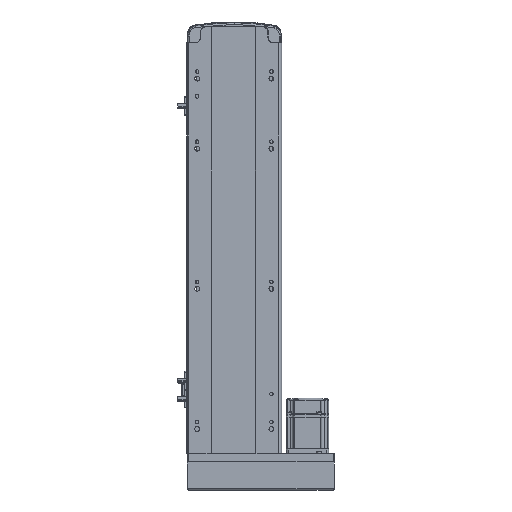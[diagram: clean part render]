
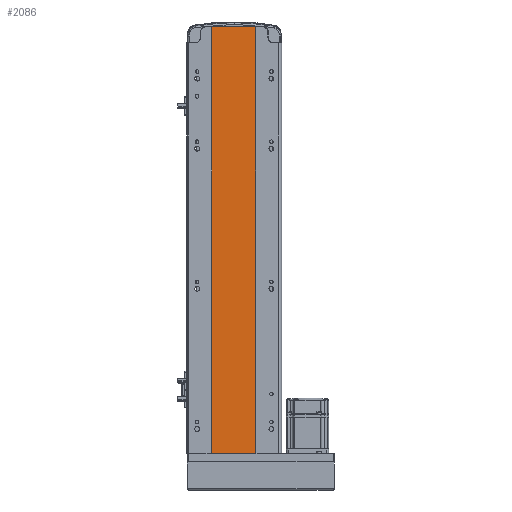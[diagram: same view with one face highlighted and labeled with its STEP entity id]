
A CAD part, front view. The second image highlights one B-rep face of the part: STEP entity #2086.
In plain terms, the highlighted planar face has unit normal (0, -1, 0).
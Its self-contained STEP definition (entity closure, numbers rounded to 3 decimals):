
#2086 = ADVANCED_FACE ( 'NONE', ( #29860 ), #38473, .F. ) ;
#5306 = EDGE_CURVE ( 'NONE', #50882, #17704, #45441, .T. ) ;
#7730 = CARTESIAN_POINT ( 'NONE',  ( -32., 1., 609. ) ) ;
#8017 = LINE ( 'NONE', #15523, #51980 ) ;
#8116 = DIRECTION ( 'NONE',  ( -1., 0., 0. ) ) ;
#8658 = ORIENTED_EDGE ( 'NONE', *, *, #5306, .F. ) ;
#12573 = DIRECTION ( 'NONE',  ( 0., 0., -1. ) ) ;
#15341 = CARTESIAN_POINT ( 'NONE',  ( -32., 1., 0. ) ) ;
#15523 = CARTESIAN_POINT ( 'NONE',  ( 30., 1., 609. ) ) ;
#15767 = LINE ( 'NONE', #15341, #23338 ) ;
#16082 = CARTESIAN_POINT ( 'NONE',  ( 30., 1., 0. ) ) ;
#17258 = VECTOR ( 'NONE', #43908, 1000. ) ;
#17704 = VERTEX_POINT ( 'NONE', #30678 ) ;
#19227 = ORIENTED_EDGE ( 'NONE', *, *, #37005, .F. ) ;
#19243 = VECTOR ( 'NONE', #12573, 1000. ) ;
#20795 = DIRECTION ( 'NONE',  ( 0., 1., 0. ) ) ;
#23338 = VECTOR ( 'NONE', #46080, 1000. ) ;
#24966 = EDGE_CURVE ( 'NONE', #50882, #26492, #53558, .T. ) ;
#25883 = DIRECTION ( 'NONE',  ( 0., 0., -1. ) ) ;
#26029 = CARTESIAN_POINT ( 'NONE',  ( -32., 1., 609. ) ) ;
#26492 = VERTEX_POINT ( 'NONE', #41485 ) ;
#29860 = FACE_OUTER_BOUND ( 'NONE', #31189, .T. ) ;
#30074 = CARTESIAN_POINT ( 'NONE',  ( -32., 1., 609. ) ) ;
#30678 = CARTESIAN_POINT ( 'NONE',  ( 30., 1., 609. ) ) ;
#31189 = EDGE_LOOP ( 'NONE', ( #37706, #19227, #8658, #52808 ) ) ;
#35094 = EDGE_CURVE ( 'NONE', #26492, #40395, #15767, .T. ) ;
#35790 = AXIS2_PLACEMENT_3D ( 'NONE', #7730, #20795, #8116 ) ;
#37005 = EDGE_CURVE ( 'NONE', #17704, #40395, #8017, .T. ) ;
#37706 = ORIENTED_EDGE ( 'NONE', *, *, #35094, .T. ) ;
#38473 = PLANE ( 'NONE',  #35790 ) ;
#40395 = VERTEX_POINT ( 'NONE', #16082 ) ;
#41485 = CARTESIAN_POINT ( 'NONE',  ( -32., 1., 0. ) ) ;
#43908 = DIRECTION ( 'NONE',  ( 1., 0., 0. ) ) ;
#44277 = CARTESIAN_POINT ( 'NONE',  ( -32., 1., 609. ) ) ;
#45441 = LINE ( 'NONE', #44277, #17258 ) ;
#46080 = DIRECTION ( 'NONE',  ( 1., 0., 0. ) ) ;
#50882 = VERTEX_POINT ( 'NONE', #30074 ) ;
#51980 = VECTOR ( 'NONE', #25883, 1000. ) ;
#52808 = ORIENTED_EDGE ( 'NONE', *, *, #24966, .T. ) ;
#53558 = LINE ( 'NONE', #26029, #19243 ) ;
